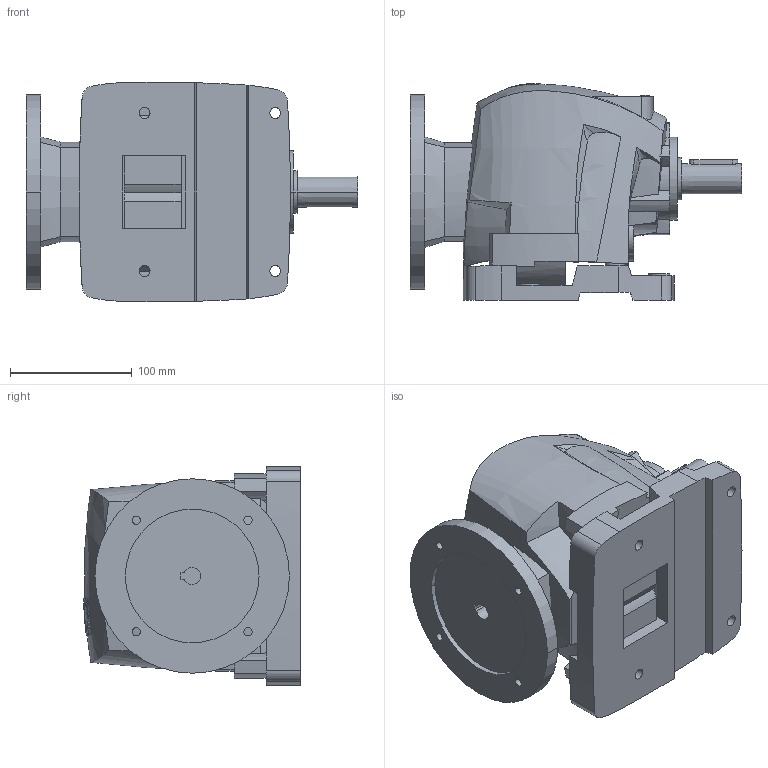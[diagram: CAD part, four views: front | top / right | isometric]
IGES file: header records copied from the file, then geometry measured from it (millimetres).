
Start section:  PTC IGES file: r25_bf_pam71.igs
Global section: file name: r25_bf_pam71.igs; native system: Pro/ENGINEER by Parametric Technology Corporation; preprocessor: 2008230; author: Luca; organization: Unknown; date: 20131216.121202; units: millimetre
Bounding box: 273 x 178.3 x 180.47 mm (x, y, z)
Volume: 3929789.6 mm3; surface area: 257730.2 mm2
Topology: 1 solids, 5 shells, 442 faces, 1217 edges, 813 vertices
Faces by surface type: bspline 271, revolution 169, extrusion 2
